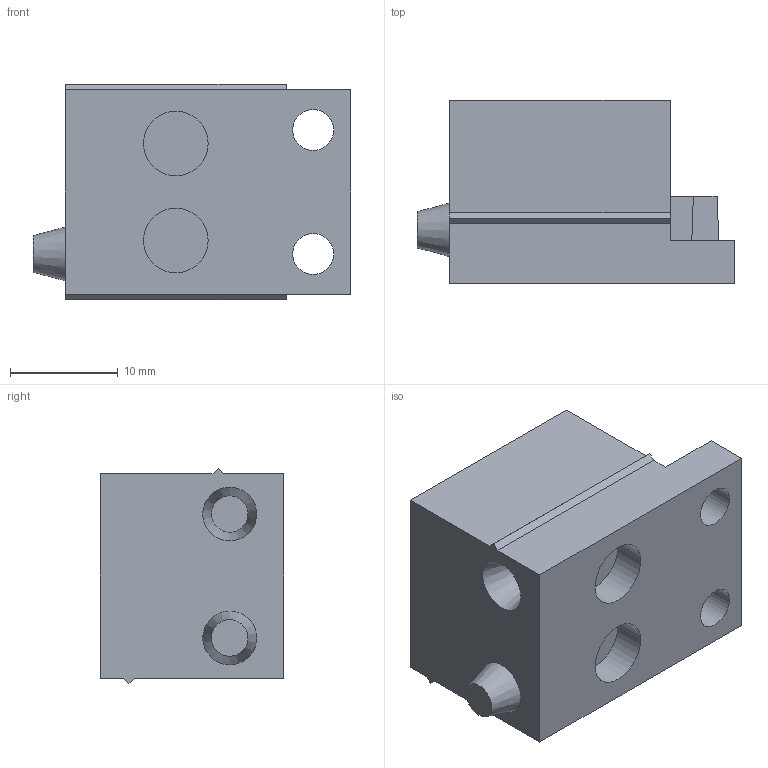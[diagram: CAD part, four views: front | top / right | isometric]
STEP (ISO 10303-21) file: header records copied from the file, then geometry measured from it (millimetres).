
FILE_DESCRIPTION(/* description */ ('STEP AP203'),/* implementation_level */ '2;1');
FILE_NAME(/* name */ '107834 TMS-STPG-GY',/* time_stamp */ '2024-10-04T14:42:00+02:00',/* author */ ('License CC BY-ND 4.0'),/* organization */ ('CADENAS'),/* preprocessor_version */ 'ST-DEVELOPER v19.3',/* originating_system */ 'PARTsolutions',/* authorisation */ ' ');
FILE_SCHEMA (('CONFIG_CONTROL_DESIGN'));
Length unit declared in the file: millimetre
Products named in the file (1): 107834 TMS-STPG-GY
Bounding box: 29.5 x 17 x 20 mm (x, y, z)
Volume: 6738.6 mm3; surface area: 2811.4 mm2
Topology: 1 solids, 1 shells, 36 faces, 84 edges, 56 vertices
Faces by surface type: plane 28, cylinder 6, cone 2
Full cylindrical faces by diameter (mm): 3.8 x2, 6 x4
Entity records: 1022 total; most frequent: CARTESIAN_POINT 169, DIRECTION 166, ORIENTED_EDGE 152, EDGE_CURVE 76, LINE 60, VECTOR 60, VERTEX_POINT 56, EDGE_LOOP 54
